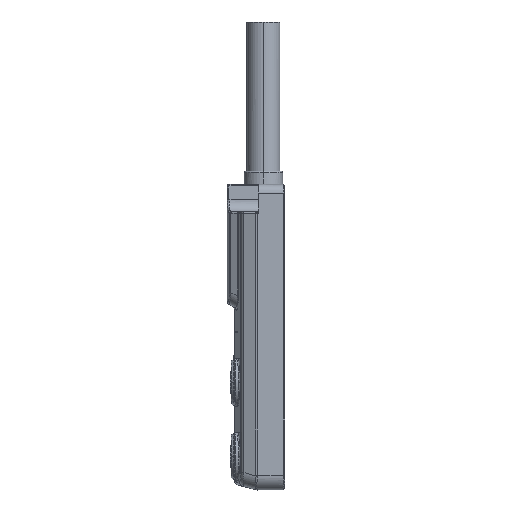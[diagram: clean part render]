
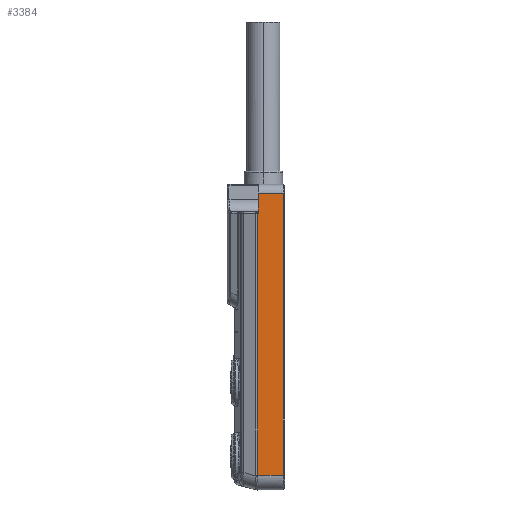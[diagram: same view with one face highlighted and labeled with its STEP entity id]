
A CAD part, left-side view. The second image highlights one B-rep face of the part: STEP entity #3384.
In plain terms, the highlighted planar face has unit normal (-1, 0, 0).
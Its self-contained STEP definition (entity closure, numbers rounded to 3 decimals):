
#1095 = EDGE_CURVE ( 'NONE', #62534, #33489, #55971, .T. ) ;
#1583 = ORIENTED_EDGE ( 'NONE', *, *, #2183, .F. ) ;
#2183 = EDGE_CURVE ( 'NONE', #57126, #79922, #10131, .T. ) ;
#2740 = FACE_OUTER_BOUND ( 'NONE', #37653, .T. ) ;
#2975 = VECTOR ( 'NONE', #68065, 1000. ) ;
#3384 = ADVANCED_FACE ( 'NONE', ( #2740 ), #72497, .F. ) ;
#3655 = CARTESIAN_POINT ( 'NONE',  ( -29., 0.5, 150. ) ) ;
#7794 = DIRECTION ( 'NONE',  ( 0., -1., 0. ) ) ;
#10131 = LINE ( 'NONE', #21571, #84956 ) ;
#10287 = EDGE_CURVE ( 'NONE', #13510, #33489, #74306, .T. ) ;
#11818 = VECTOR ( 'NONE', #41341, 1000. ) ;
#13074 = CARTESIAN_POINT ( 'NONE',  ( -29., 9.224, 143.3 ) ) ;
#13510 = VERTEX_POINT ( 'NONE', #61972 ) ;
#13550 = ORIENTED_EDGE ( 'NONE', *, *, #54965, .F. ) ;
#14492 = CARTESIAN_POINT ( 'NONE',  ( -29., 9.224, 102.5 ) ) ;
#15227 = CARTESIAN_POINT ( 'NONE',  ( -29., 5.005, 55. ) ) ;
#16200 = AXIS2_PLACEMENT_3D ( 'NONE', #59438, #19606, #68157 ) ;
#19606 = DIRECTION ( 'NONE',  ( 1., 0., 0. ) ) ;
#20123 = LINE ( 'NONE', #40573, #35706 ) ;
#20577 = EDGE_CURVE ( 'NONE', #13510, #79922, #33631, .T. ) ;
#21571 = CARTESIAN_POINT ( 'NONE',  ( -29., 0.5, 102.5 ) ) ;
#33489 = VERTEX_POINT ( 'NONE', #13074 ) ;
#33631 = LINE ( 'NONE', #15227, #11818 ) ;
#35048 = ORIENTED_EDGE ( 'NONE', *, *, #20577, .T. ) ;
#35343 = DIRECTION ( 'NONE',  ( 0., 0., 1. ) ) ;
#35706 = VECTOR ( 'NONE', #7794, 1000. ) ;
#37653 = EDGE_LOOP ( 'NONE', ( #77659, #64931, #70824, #35048, #1583, #13550 ) ) ;
#40573 = CARTESIAN_POINT ( 'NONE',  ( -29., 4.862, 150. ) ) ;
#41341 = DIRECTION ( 'NONE',  ( 0., -1., 0. ) ) ;
#46456 = CARTESIAN_POINT ( 'NONE',  ( -29., 9., 148.121 ) ) ;
#47635 = VECTOR ( 'NONE', #59544, 1000. ) ;
#48467 = EDGE_CURVE ( 'NONE', #62534, #67672, #65304, .T. ) ;
#54965 = EDGE_CURVE ( 'NONE', #67672, #57126, #20123, .T. ) ;
#55971 = LINE ( 'NONE', #75021, #2975 ) ;
#57126 = VERTEX_POINT ( 'NONE', #3655 ) ;
#59438 = CARTESIAN_POINT ( 'NONE',  ( -29., 9.224, 150. ) ) ;
#59544 = DIRECTION ( 'NONE',  ( 0., 0., 1. ) ) ;
#61972 = CARTESIAN_POINT ( 'NONE',  ( -29., 9.224, 55. ) ) ;
#62534 = VERTEX_POINT ( 'NONE', #64853 ) ;
#64853 = CARTESIAN_POINT ( 'NONE',  ( -29., 9., 143.3 ) ) ;
#64931 = ORIENTED_EDGE ( 'NONE', *, *, #1095, .T. ) ;
#65304 = LINE ( 'NONE', #46456, #47635 ) ;
#65832 = CARTESIAN_POINT ( 'NONE',  ( -29., 0.5, 55. ) ) ;
#67672 = VERTEX_POINT ( 'NONE', #71729 ) ;
#68065 = DIRECTION ( 'NONE',  ( 0., 1., 0. ) ) ;
#68157 = DIRECTION ( 'NONE',  ( 0., -1., 0. ) ) ;
#70824 = ORIENTED_EDGE ( 'NONE', *, *, #10287, .F. ) ;
#71729 = CARTESIAN_POINT ( 'NONE',  ( -29., 9., 150. ) ) ;
#72497 = PLANE ( 'NONE',  #16200 ) ;
#74306 = LINE ( 'NONE', #14492, #84707 ) ;
#75021 = CARTESIAN_POINT ( 'NONE',  ( -29., 9.112, 143.3 ) ) ;
#77659 = ORIENTED_EDGE ( 'NONE', *, *, #48467, .F. ) ;
#79922 = VERTEX_POINT ( 'NONE', #65832 ) ;
#81454 = DIRECTION ( 'NONE',  ( 0., 0., -1. ) ) ;
#84707 = VECTOR ( 'NONE', #35343, 1000. ) ;
#84956 = VECTOR ( 'NONE', #81454, 1000. ) ;
